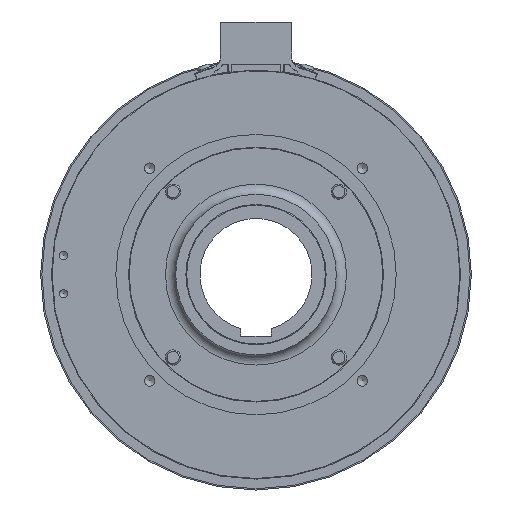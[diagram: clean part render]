
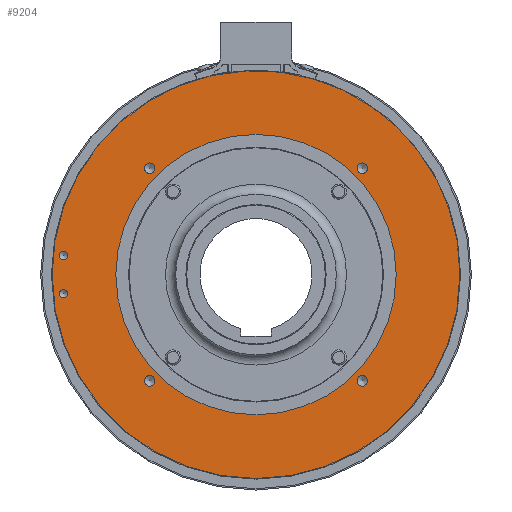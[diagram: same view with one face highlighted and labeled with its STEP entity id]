
A CAD part, left-side view. The second image highlights one B-rep face of the part: STEP entity #9204.
In plain terms, the highlighted planar face has unit normal (-1, 0, 0).
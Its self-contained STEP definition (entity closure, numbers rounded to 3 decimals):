
#726=FACE_BOUND('',#1892,.T.);
#727=FACE_BOUND('',#1893,.T.);
#728=FACE_BOUND('',#1894,.T.);
#729=FACE_BOUND('',#1895,.T.);
#730=FACE_BOUND('',#1896,.T.);
#731=FACE_BOUND('',#1897,.T.);
#732=FACE_BOUND('',#1898,.T.);
#945=PLANE('',#10172);
#1334=FACE_OUTER_BOUND('',#1891,.T.);
#1891=EDGE_LOOP('',(#7836,#7837,#7838));
#1892=EDGE_LOOP('',(#7839,#7840));
#1893=EDGE_LOOP('',(#7841,#7842));
#1894=EDGE_LOOP('',(#7843,#7844));
#1895=EDGE_LOOP('',(#7845,#7846));
#1896=EDGE_LOOP('',(#7847,#7848));
#1897=EDGE_LOOP('',(#7849,#7850));
#1898=EDGE_LOOP('',(#7851,#7852));
#3392=CIRCLE('',#9752,80.);
#3393=CIRCLE('',#9753,80.);
#3416=CIRCLE('',#9786,80.);
#3595=CIRCLE('',#10137,1.621);
#3596=CIRCLE('',#10138,1.621);
#3599=CIRCLE('',#10143,1.621);
#3600=CIRCLE('',#10144,1.621);
#3604=CIRCLE('',#10152,2.067);
#3605=CIRCLE('',#10153,2.067);
#3608=CIRCLE('',#10158,2.067);
#3609=CIRCLE('',#10159,2.067);
#3612=CIRCLE('',#10164,2.067);
#3613=CIRCLE('',#10165,2.067);
#3616=CIRCLE('',#10170,2.067);
#3617=CIRCLE('',#10171,2.067);
#3618=CIRCLE('',#10173,55.);
#3619=CIRCLE('',#10174,55.);
#4176=VERTEX_POINT('',#14619);
#4181=VERTEX_POINT('',#14629);
#4182=VERTEX_POINT('',#14631);
#4437=VERTEX_POINT('',#15804);
#4438=VERTEX_POINT('',#15805);
#4442=VERTEX_POINT('',#15817);
#4443=VERTEX_POINT('',#15818);
#4450=VERTEX_POINT('',#15893);
#4451=VERTEX_POINT('',#15894);
#4455=VERTEX_POINT('',#15906);
#4456=VERTEX_POINT('',#15907);
#4460=VERTEX_POINT('',#15919);
#4461=VERTEX_POINT('',#15920);
#4465=VERTEX_POINT('',#15932);
#4466=VERTEX_POINT('',#15933);
#4467=VERTEX_POINT('',#15938);
#4468=VERTEX_POINT('',#15939);
#5189=EDGE_CURVE('',#4182,#4181,#3392,.T.);
#5190=EDGE_CURVE('',#4176,#4182,#3393,.T.);
#5241=EDGE_CURVE('',#4181,#4176,#3416,.T.);
#5625=EDGE_CURVE('',#4437,#4438,#3595,.T.);
#5626=EDGE_CURVE('',#4438,#4437,#3596,.T.);
#5631=EDGE_CURVE('',#4442,#4443,#3599,.T.);
#5632=EDGE_CURVE('',#4443,#4442,#3600,.T.);
#5642=EDGE_CURVE('',#4450,#4451,#3604,.T.);
#5643=EDGE_CURVE('',#4451,#4450,#3605,.T.);
#5648=EDGE_CURVE('',#4455,#4456,#3608,.T.);
#5649=EDGE_CURVE('',#4456,#4455,#3609,.T.);
#5654=EDGE_CURVE('',#4460,#4461,#3612,.T.);
#5655=EDGE_CURVE('',#4461,#4460,#3613,.T.);
#5660=EDGE_CURVE('',#4465,#4466,#3616,.T.);
#5661=EDGE_CURVE('',#4466,#4465,#3617,.T.);
#5663=EDGE_CURVE('',#4467,#4468,#3618,.T.);
#5664=EDGE_CURVE('',#4468,#4467,#3619,.T.);
#7836=ORIENTED_EDGE('',*,*,#5189,.T.);
#7837=ORIENTED_EDGE('',*,*,#5241,.T.);
#7838=ORIENTED_EDGE('',*,*,#5190,.T.);
#7839=ORIENTED_EDGE('',*,*,#5625,.T.);
#7840=ORIENTED_EDGE('',*,*,#5626,.T.);
#7841=ORIENTED_EDGE('',*,*,#5631,.T.);
#7842=ORIENTED_EDGE('',*,*,#5632,.T.);
#7843=ORIENTED_EDGE('',*,*,#5642,.T.);
#7844=ORIENTED_EDGE('',*,*,#5643,.T.);
#7845=ORIENTED_EDGE('',*,*,#5648,.T.);
#7846=ORIENTED_EDGE('',*,*,#5649,.T.);
#7847=ORIENTED_EDGE('',*,*,#5654,.T.);
#7848=ORIENTED_EDGE('',*,*,#5655,.T.);
#7849=ORIENTED_EDGE('',*,*,#5660,.T.);
#7850=ORIENTED_EDGE('',*,*,#5661,.T.);
#7851=ORIENTED_EDGE('',*,*,#5663,.F.);
#7852=ORIENTED_EDGE('',*,*,#5664,.F.);
#9204=ADVANCED_FACE('',(#1334,#726,#727,#728,#729,#730,#731,#732),#945,
 .T.);
#9752=AXIS2_PLACEMENT_3D('',#14632,#11475,#11476);
#9753=AXIS2_PLACEMENT_3D('',#14633,#11477,#11478);
#9786=AXIS2_PLACEMENT_3D('',#14900,#11557,#11558);
#10137=AXIS2_PLACEMENT_3D('',#15806,#12453,#12454);
#10138=AXIS2_PLACEMENT_3D('',#15807,#12455,#12456);
#10143=AXIS2_PLACEMENT_3D('',#15819,#12467,#12468);
#10144=AXIS2_PLACEMENT_3D('',#15820,#12469,#12470);
#10152=AXIS2_PLACEMENT_3D('',#15895,#12488,#12489);
#10153=AXIS2_PLACEMENT_3D('',#15896,#12490,#12491);
#10158=AXIS2_PLACEMENT_3D('',#15908,#12502,#12503);
#10159=AXIS2_PLACEMENT_3D('',#15909,#12504,#12505);
#10164=AXIS2_PLACEMENT_3D('',#15921,#12516,#12517);
#10165=AXIS2_PLACEMENT_3D('',#15922,#12518,#12519);
#10170=AXIS2_PLACEMENT_3D('',#15934,#12530,#12531);
#10171=AXIS2_PLACEMENT_3D('',#15935,#12532,#12533);
#10172=AXIS2_PLACEMENT_3D('',#15937,#12535,#12536);
#10173=AXIS2_PLACEMENT_3D('',#15940,#12537,#12538);
#10174=AXIS2_PLACEMENT_3D('',#15941,#12539,#12540);
#11475=DIRECTION('center_axis',(-1.,0.,0.));
#11476=DIRECTION('ref_axis',(0.,1.,0.));
#11477=DIRECTION('center_axis',(-1.,0.,0.));
#11478=DIRECTION('ref_axis',(0.,1.,0.));
#11557=DIRECTION('center_axis',(-1.,0.,0.));
#11558=DIRECTION('ref_axis',(0.,1.,0.));
#12453=DIRECTION('center_axis',(1.,0.,0.));
#12454=DIRECTION('ref_axis',(0.,0.,
1.));
#12455=DIRECTION('center_axis',(1.,0.,0.));
#12456=DIRECTION('ref_axis',(0.,0.,
1.));
#12467=DIRECTION('center_axis',(1.,0.,0.));
#12468=DIRECTION('ref_axis',(0.,0.,
1.));
#12469=DIRECTION('center_axis',(1.,0.,0.));
#12470=DIRECTION('ref_axis',(0.,0.,
1.));
#12488=DIRECTION('center_axis',(1.,0.,0.));
#12489=DIRECTION('ref_axis',(0.,0.,
1.));
#12490=DIRECTION('center_axis',(1.,0.,0.));
#12491=DIRECTION('ref_axis',(0.,0.,
1.));
#12502=DIRECTION('center_axis',(1.,0.,0.));
#12503=DIRECTION('ref_axis',(0.,0.,
1.));
#12504=DIRECTION('center_axis',(1.,0.,0.));
#12505=DIRECTION('ref_axis',(0.,0.,
1.));
#12516=DIRECTION('center_axis',(1.,0.,0.));
#12517=DIRECTION('ref_axis',(0.,0.,
1.));
#12518=DIRECTION('center_axis',(1.,0.,0.));
#12519=DIRECTION('ref_axis',(0.,0.,
1.));
#12530=DIRECTION('center_axis',(1.,0.,0.));
#12531=DIRECTION('ref_axis',(0.,0.,
1.));
#12532=DIRECTION('center_axis',(1.,0.,0.));
#12533=DIRECTION('ref_axis',(0.,0.,
1.));
#12535=DIRECTION('center_axis',(-1.,0.,0.));
#12536=DIRECTION('ref_axis',(0.,0.,
1.));
#12537=DIRECTION('center_axis',(-1.,0.,0.));
#12538=DIRECTION('ref_axis',(0.,1.,0.));
#12539=DIRECTION('center_axis',(-1.,0.,0.));
#12540=DIRECTION('ref_axis',(0.,1.,0.));
#14619=CARTESIAN_POINT('',(-15.,-9.676,79.413));
#14629=CARTESIAN_POINT('',(-15.,-80.,0.));
#14631=CARTESIAN_POINT('',(-15.,80.,0.));
#14632=CARTESIAN_POINT('Origin',(-15.,0.,0.));
#14633=CARTESIAN_POINT('Origin',(-15.,0.,0.));
#14900=CARTESIAN_POINT('Origin',(-15.,0.,0.));
#15804=CARTESIAN_POINT('',(-15.,75.5,9.121));
#15805=CARTESIAN_POINT('',(-15.,75.5,5.879));
#15806=CARTESIAN_POINT('Origin',(-15.,75.5,7.5));
#15807=CARTESIAN_POINT('Origin',(-15.,75.5,7.5));
#15817=CARTESIAN_POINT('',(-15.,75.5,-5.879));
#15818=CARTESIAN_POINT('',(-15.,75.5,-9.121));
#15819=CARTESIAN_POINT('Origin',(-15.,75.5,-7.5));
#15820=CARTESIAN_POINT('Origin',(-15.,75.5,-7.5));
#15893=CARTESIAN_POINT('',(-15.,41.719,43.786));
#15894=CARTESIAN_POINT('',(-15.,41.719,39.652));
#15895=CARTESIAN_POINT('Origin',(-15.,41.719,41.719));
#15896=CARTESIAN_POINT('Origin',(-15.,41.719,41.719));
#15906=CARTESIAN_POINT('',(-15.,-41.719,43.786));
#15907=CARTESIAN_POINT('',(-15.,-41.719,39.652));
#15908=CARTESIAN_POINT('Origin',(-15.,-41.719,41.719));
#15909=CARTESIAN_POINT('Origin',(-15.,-41.719,41.719));
#15919=CARTESIAN_POINT('',(-15.,-41.719,-39.652));
#15920=CARTESIAN_POINT('',(-15.,-41.719,-43.786));
#15921=CARTESIAN_POINT('Origin',(-15.,-41.719,-41.719));
#15922=CARTESIAN_POINT('Origin',(-15.,-41.719,-41.719));
#15932=CARTESIAN_POINT('',(-15.,41.719,-39.652));
#15933=CARTESIAN_POINT('',(-15.,41.719,-43.786));
#15934=CARTESIAN_POINT('Origin',(-15.,41.719,-41.719));
#15935=CARTESIAN_POINT('Origin',(-15.,41.719,-41.719));
#15937=CARTESIAN_POINT('Origin',(-15.,67.5,0.));
#15938=CARTESIAN_POINT('',(-15.,55.,0.));
#15939=CARTESIAN_POINT('',(-15.,-55.,0.));
#15940=CARTESIAN_POINT('Origin',(-15.,0.,0.));
#15941=CARTESIAN_POINT('Origin',(-15.,0.,0.));
